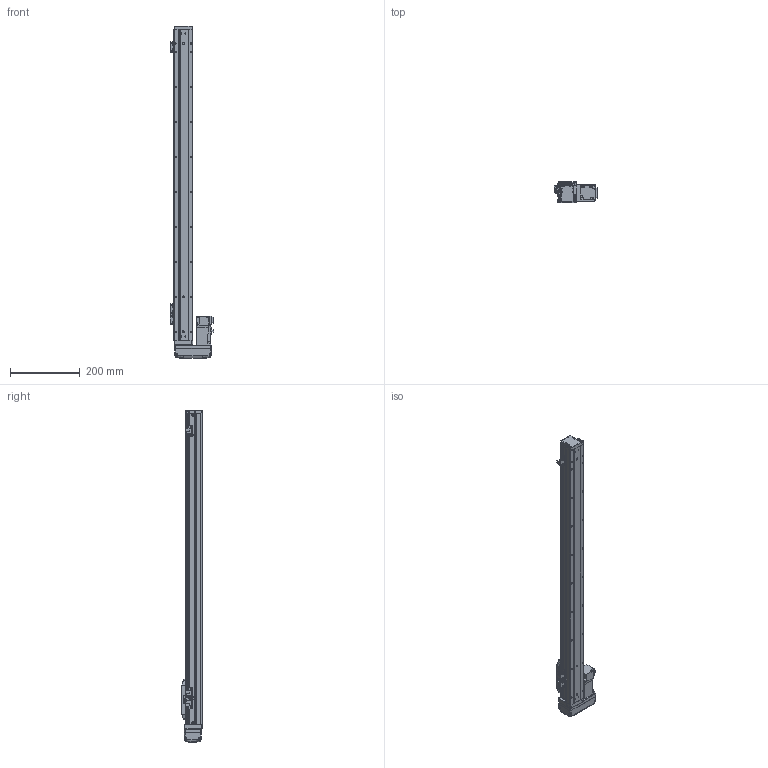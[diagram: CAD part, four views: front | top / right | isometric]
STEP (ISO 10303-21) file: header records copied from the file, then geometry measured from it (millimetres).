
FILE_DESCRIPTION (( 'STEP AP203' ), '1' );
FILE_NAME ('GTH5-750-BR-M10-C4.step', '2022-09-23T00:52:10', ( '微软用户' ), ( '微软中国' ), 'SwSTEP 2.0', 'SolidWorks 2020', '' );
FILE_SCHEMA (( 'CONFIG_CONTROL_DESIGN' ));
Length unit declared in the file: millimetre
Products named in the file (19): GBT 70.1-M3℅6; GTH50-001_750; GTH50-027-1_BTHA50-027-2; GBT96.1-2002 3×0.8; GBT 70.1-M4×16; GTH50-026; GTH50-024; GTH5-750-BR-M10-C4; GTH50-006; GBT 70.1-M2.5×6; GTH50-003; GTH50-004; GTH50-028; GTH50-013; GBT 70.3-M3℅6; GTH50-022-1; GTH50-023; BTH-M3X5X6; HG-KR13
Assembly tree (57 placements, depth 2):
  GTH5-750-BR-M10-C4
    GTH50-006
    GTH50-004
    GBT 70.3-M3℅6  x4
    BTH-M3X5X6  x8
    GTH50-001_750
    GBT 70.1-M4×16  x8
    GTH50-003
    GTH50-013
    GTH50-023  x3
    GBT 70.1-M3℅6  x12
    GBT96.1-2002 3×0.8  x6
    GTH50-024  x3
    GBT 70.1-M2.5×6  x2
    GTH50-028  x2
    GTH50-022-1
    HG-KR13
    GTH50-027-1_BTHA50-027-2
    GTH50-026
Bounding box: 123.6 x 60 x 950 mm (x, y, z)
Volume: 2123371.6 mm3; surface area: 341315.4 mm2
Topology: 59 solids, 59 shells, 2168 faces, 5040 edges, 3092 vertices
Faces by surface type: plane 1142, cylinder 597, cone 219, torus 162, bspline 40, sphere 8
Entity records: 40456 total; most frequent: CARTESIAN_POINT 7995, DIRECTION 6241, ORIENTED_EDGE 5994, EDGE_CURVE 2997, AXIS2_PLACEMENT_3D 2176, VERTEX_POINT 1894, LINE 1889, VECTOR 1889
